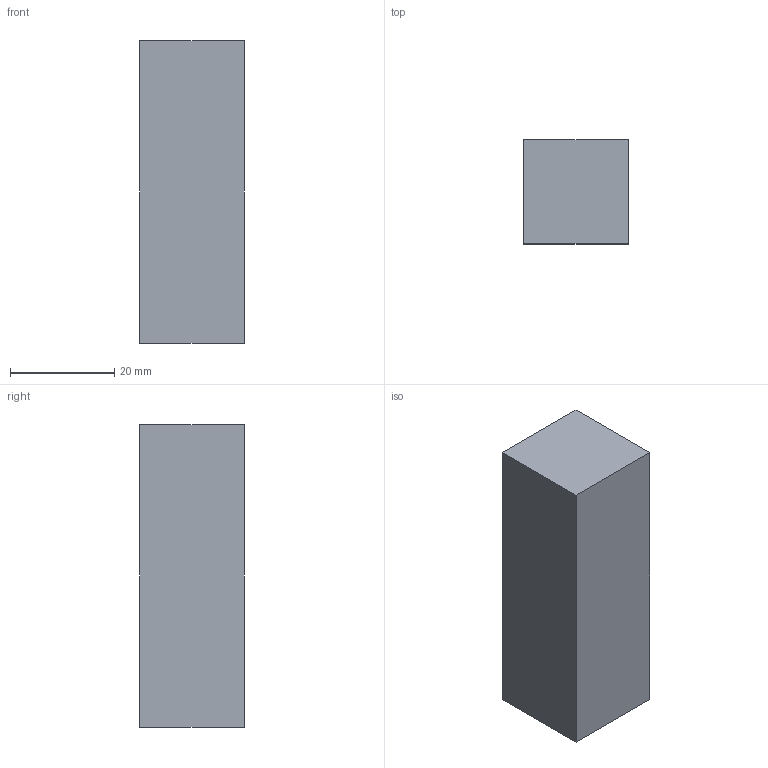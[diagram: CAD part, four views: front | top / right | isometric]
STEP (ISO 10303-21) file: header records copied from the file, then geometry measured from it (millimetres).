
FILE_DESCRIPTION (( 'STEP AP203' ), '1' );
FILE_NAME ('V2_REF_gripper_body.STEP', '2026-09-18T10:18:36', ( '15300530775@163.com' ), ( '' ), 'SwSTEP 2.0', 'SolidWorks 2026', '' );
FILE_SCHEMA (( 'CONFIG_CONTROL_DESIGN' ));
Length unit declared in the file: millimetre
Products named in the file (1): V2_REF_gripper_body
Bounding box: 20 x 20 x 58 mm (x, y, z)
Volume: 23200 mm3; surface area: 5440 mm2
Topology: 1 solids, 1 shells, 6 faces, 12 edges, 8 vertices
Faces by surface type: plane 6
Entity records: 233 total; most frequent: CARTESIAN_POINT 27, DIRECTION 26, ORIENTED_EDGE 24, VECTOR 12, LINE 12, EDGE_CURVE 12, PERSON_AND_ORGANIZATION 8, VERTEX_POINT 8
